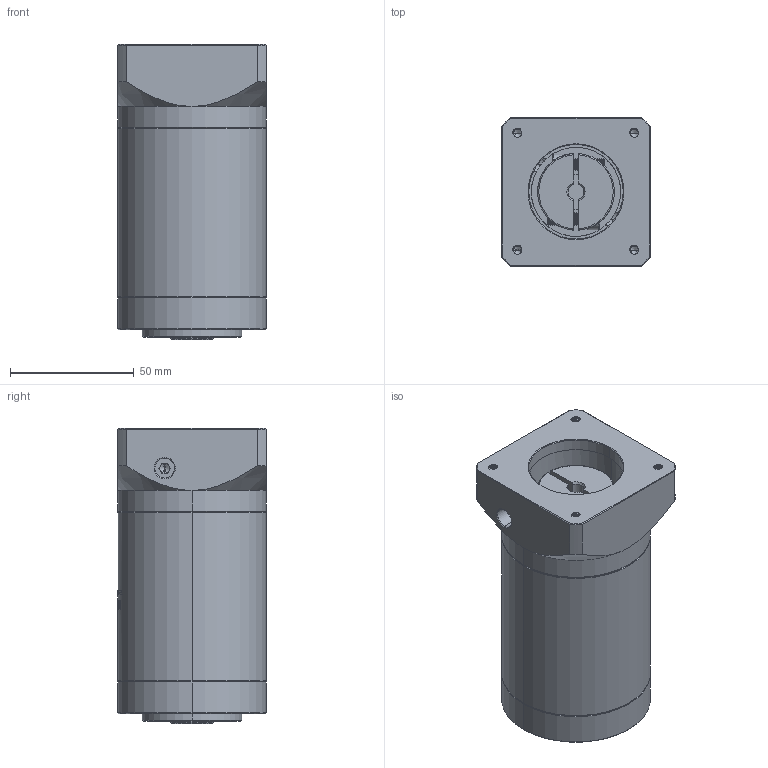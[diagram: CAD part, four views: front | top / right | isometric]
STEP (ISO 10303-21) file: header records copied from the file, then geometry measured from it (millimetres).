
FILE_DESCRIPTION (( 'STEP AP214' ), '1' );
FILE_NAME ('ZE60-K10-L3-6.35-38.1-47.14X47.14-M4.STEP', '2022-04-17T15:05:42', ( '' ), ( 'Microsoft' ), 'SwSTEP 2.0', 'SolidWorks 2016', '' );
FILE_SCHEMA (( 'AUTOMOTIVE_DESIGN' ));
Length unit declared in the file: millimetre
Products named in the file (1): ZE60-K10-L3-6.35-38.1-47.14X47.14-M4
Bounding box: 60 x 60 x 119 mm (x, y, z)
Volume: 310748 mm3; surface area: 48107.7 mm2
Topology: 6 solids, 6 shells, 1634 faces, 4458 edges, 2895 vertices
Faces by surface type: plane 725, cylinder 380, bspline 304, cone 207, torus 18
Entity records: 93487 total; most frequent: CARTESIAN_POINT 38284, ORIENTED_EDGE 8876, DIRECTION 6349, EDGE_CURVE 4438, VERTEX_POINT 2895, VECTOR 2237, LINE 2237, AXIS2_PLACEMENT_3D 2056
